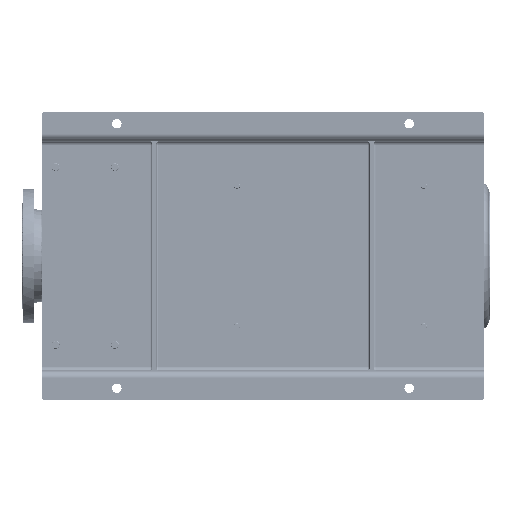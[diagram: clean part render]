
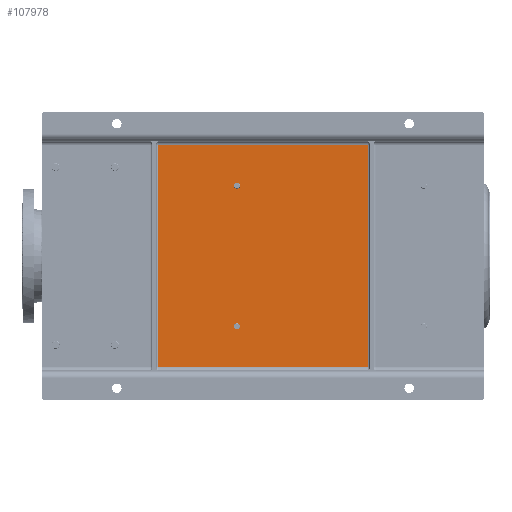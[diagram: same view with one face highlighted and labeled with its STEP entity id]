
A CAD part, front view. The second image highlights one B-rep face of the part: STEP entity #107978.
In plain terms, the highlighted planar face has unit normal (0, -1, 0).
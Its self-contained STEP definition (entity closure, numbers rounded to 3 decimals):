
#759 = CARTESIAN_POINT ( 'NONE',  ( 543.01, 90., -494. ) ) ;
#2226 = ORIENTED_EDGE ( 'NONE', *, *, #62791, .T. ) ;
#5658 = EDGE_CURVE ( 'NONE', #108671, #17680, #17914, .T. ) ;
#6342 = CARTESIAN_POINT ( 'NONE',  ( 186.99, 90., -486. ) ) ;
#6917 = ORIENTED_EDGE ( 'NONE', *, *, #127926, .T. ) ;
#10979 = ORIENTED_EDGE ( 'NONE', *, *, #36795, .T. ) ;
#10985 = DIRECTION ( 'NONE',  ( 0., 1., 0. ) ) ;
#17680 = VERTEX_POINT ( 'NONE', #166377 ) ;
#17914 = CIRCLE ( 'NONE', #179340, 8. ) ;
#22090 = CARTESIAN_POINT ( 'NONE',  ( 85., 90., -830. ) ) ;
#24265 = CARTESIAN_POINT ( 'NONE',  ( 75., 90., -825. ) ) ;
#27833 = CARTESIAN_POINT ( 'NONE',  ( 543.01, 90., -502. ) ) ;
#29931 = CARTESIAN_POINT ( 'NONE',  ( 645., 90., -825. ) ) ;
#33743 = VERTEX_POINT ( 'NONE', #149568 ) ;
#36518 = FACE_BOUND ( 'NONE', #151955, .T. ) ;
#36795 = EDGE_CURVE ( 'NONE', #157629, #33743, #41440, .T. ) ;
#39224 = FACE_BOUND ( 'NONE', #118926, .T. ) ;
#41440 = CIRCLE ( 'NONE', #91261, 8. ) ;
#48312 = CARTESIAN_POINT ( 'NONE',  ( 645., 90., -295. ) ) ;
#50530 = LINE ( 'NONE', #22090, #117324 ) ;
#51453 = ORIENTED_EDGE ( 'NONE', *, *, #129926, .T. ) ;
#58288 = CARTESIAN_POINT ( 'NONE',  ( 543.01, 90., -494. ) ) ;
#62083 = AXIS2_PLACEMENT_3D ( 'NONE', #94497, #10985, #66972 ) ;
#62791 = EDGE_CURVE ( 'NONE', #87675, #146524, #103023, .T. ) ;
#63059 = ORIENTED_EDGE ( 'NONE', *, *, #168555, .T. ) ;
#64105 = PLANE ( 'NONE',  #76631 ) ;
#64989 = DIRECTION ( 'NONE',  ( 0., -1., 0. ) ) ;
#65567 = DIRECTION ( 'NONE',  ( 1., 0., 0. ) ) ;
#66972 = DIRECTION ( 'NONE',  ( 0., 0., -1. ) ) ;
#67036 = DIRECTION ( 'NONE',  ( 0., 0., -1. ) ) ;
#67402 = LINE ( 'NONE', #24265, #179186 ) ;
#73031 = VECTOR ( 'NONE', #77296, 1000. ) ;
#76631 = AXIS2_PLACEMENT_3D ( 'NONE', #134832, #64989, #107206 ) ;
#77296 = DIRECTION ( 'NONE',  ( -1., 0., 0. ) ) ;
#78791 = FACE_OUTER_BOUND ( 'NONE', #152290, .T. ) ;
#83226 = ORIENTED_EDGE ( 'NONE', *, *, #115382, .T. ) ;
#87675 = VERTEX_POINT ( 'NONE', #48312 ) ;
#90863 = LINE ( 'NONE', #106414, #146209 ) ;
#91261 = AXIS2_PLACEMENT_3D ( 'NONE', #759, #153252, #155084 ) ;
#94497 = CARTESIAN_POINT ( 'NONE',  ( 186.99, 90., -494. ) ) ;
#96070 = EDGE_CURVE ( 'NONE', #33743, #157629, #113405, .T. ) ;
#97810 = CARTESIAN_POINT ( 'NONE',  ( 85., 90., -295. ) ) ;
#103023 = LINE ( 'NONE', #131567, #73031 ) ;
#103057 = ORIENTED_EDGE ( 'NONE', *, *, #5658, .T. ) ;
#103337 = DIRECTION ( 'NONE',  ( 0., 1., 0. ) ) ;
#106414 = CARTESIAN_POINT ( 'NONE',  ( 645., 90., -290. ) ) ;
#107206 = DIRECTION ( 'NONE',  ( 0., 0., -1. ) ) ;
#107978 = ADVANCED_FACE ( 'NONE', ( #36518, #39224, #78791 ), #64105, .T. ) ;
#108671 = VERTEX_POINT ( 'NONE', #6342 ) ;
#113405 = CIRCLE ( 'NONE', #131011, 8. ) ;
#115382 = EDGE_CURVE ( 'NONE', #17680, #108671, #158913, .T. ) ;
#117324 = VECTOR ( 'NONE', #67036, 1000. ) ;
#118926 = EDGE_LOOP ( 'NONE', ( #103057, #83226 ) ) ;
#127926 = EDGE_CURVE ( 'NONE', #146524, #130498, #50530, .T. ) ;
#129926 = EDGE_CURVE ( 'NONE', #130498, #177414, #67402, .T. ) ;
#130498 = VERTEX_POINT ( 'NONE', #174325 ) ;
#131011 = AXIS2_PLACEMENT_3D ( 'NONE', #58288, #152976, #154813 ) ;
#131567 = CARTESIAN_POINT ( 'NONE',  ( 75., 90., -295. ) ) ;
#133648 = CARTESIAN_POINT ( 'NONE',  ( 186.99, 90., -494. ) ) ;
#134031 = DIRECTION ( 'NONE',  ( 0., 0., 1. ) ) ;
#134832 = CARTESIAN_POINT ( 'NONE',  ( 75., 90., -1120. ) ) ;
#146209 = VECTOR ( 'NONE', #134031, 1000. ) ;
#146524 = VERTEX_POINT ( 'NONE', #97810 ) ;
#149568 = CARTESIAN_POINT ( 'NONE',  ( 543.01, 90., -486. ) ) ;
#151955 = EDGE_LOOP ( 'NONE', ( #175709, #10979 ) ) ;
#152290 = EDGE_LOOP ( 'NONE', ( #6917, #51453, #63059, #2226 ) ) ;
#152976 = DIRECTION ( 'NONE',  ( 0., 1., 0. ) ) ;
#153252 = DIRECTION ( 'NONE',  ( 0., 1., 0. ) ) ;
#154813 = DIRECTION ( 'NONE',  ( 0., 0., 1. ) ) ;
#155084 = DIRECTION ( 'NONE',  ( 0., 0., 1. ) ) ;
#157629 = VERTEX_POINT ( 'NONE', #27833 ) ;
#158913 = CIRCLE ( 'NONE', #62083, 8. ) ;
#162158 = DIRECTION ( 'NONE',  ( 0., 0., -1. ) ) ;
#166377 = CARTESIAN_POINT ( 'NONE',  ( 186.99, 90., -502. ) ) ;
#168555 = EDGE_CURVE ( 'NONE', #177414, #87675, #90863, .T. ) ;
#174325 = CARTESIAN_POINT ( 'NONE',  ( 85., 90., -825. ) ) ;
#175709 = ORIENTED_EDGE ( 'NONE', *, *, #96070, .T. ) ;
#177414 = VERTEX_POINT ( 'NONE', #29931 ) ;
#179186 = VECTOR ( 'NONE', #65567, 1000. ) ;
#179340 = AXIS2_PLACEMENT_3D ( 'NONE', #133648, #103337, #162158 ) ;
